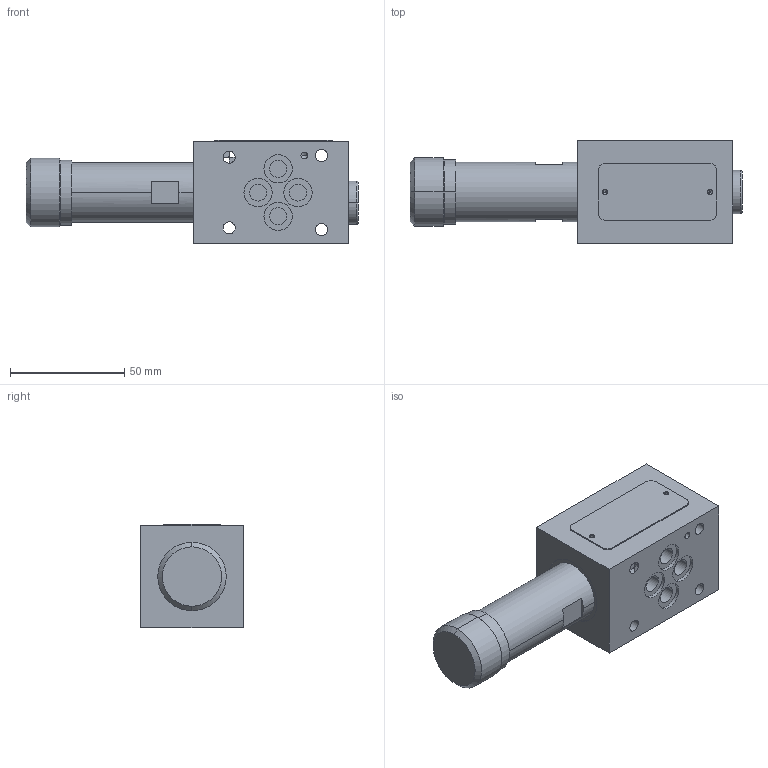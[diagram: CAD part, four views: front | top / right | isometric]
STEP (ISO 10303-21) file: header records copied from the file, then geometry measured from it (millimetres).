
FILE_DESCRIPTION((''),'2;1');
FILE_NAME('VRN2_06_MP_286382_ASM','2018-10-16T',('l.soukupova'),(''),'PRO/ENGINEER BY PARAMETRIC TECHNOLOGY CORPORATION, 2015440','PRO/ENGINEER BY PARAMETRIC TECHNOLOGY CORPORATION, 2015440','');
FILE_SCHEMA(('AUTOMOTIVE_DESIGN { 1 0 10303 214 1 1 1 1 }'));
Length unit declared in the file: millimetre
Products named in the file (5): IMP_VRN2_06_MP; RD_LABEL_25X52; VSTI_1_4_ED_154763; VRN2_06_S_R_AF0; VRN2_06_MP_286382_ASM
Assembly tree (4 placements, depth 2):
  VRN2_06_MP_286382_ASM
    IMP_VRN2_06_MP
    RD_LABEL_25X52
    VSTI_1_4_ED_154763
    VRN2_06_S_R_AF0
Bounding box: 145.5 x 45 x 45.5 mm (x, y, z)
Volume: 165719 mm3; surface area: 43622.5 mm2
Topology: 4 solids, 10 shells, 265 faces, 679 edges, 497 vertices
Faces by surface type: cylinder 134, plane 62, cone 51, torus 18
Entity records: 13431 total; most frequent: CARTESIAN_POINT 3387, DIRECTION 1522, ORIENTED_EDGE 1162, PRESENTATION_STYLE_ASSIGNMENT 788, STYLED_ITEM 705, CURVE_STYLE 696, AXIS2_PLACEMENT_3D 611, EDGE_CURVE 593
